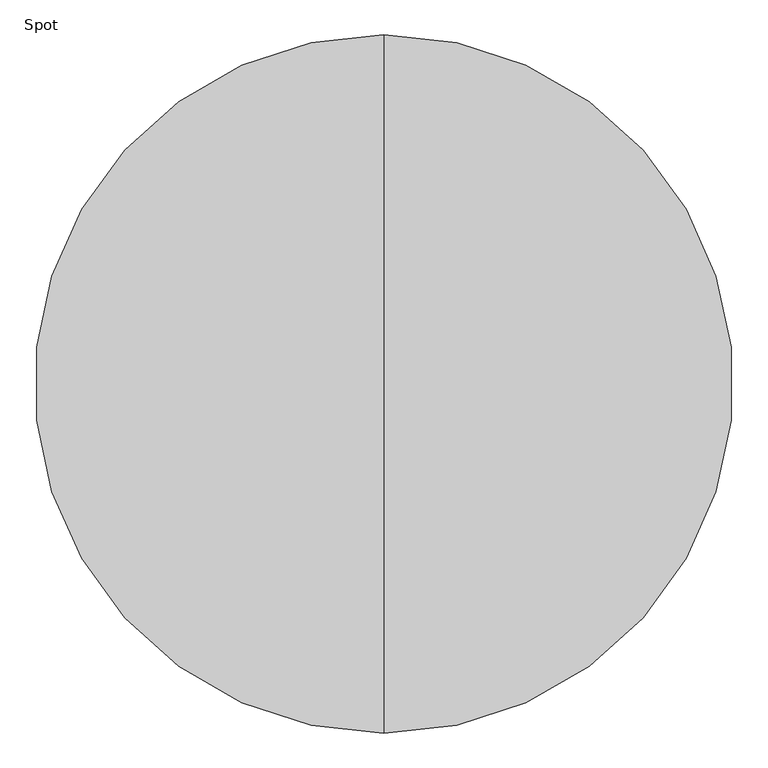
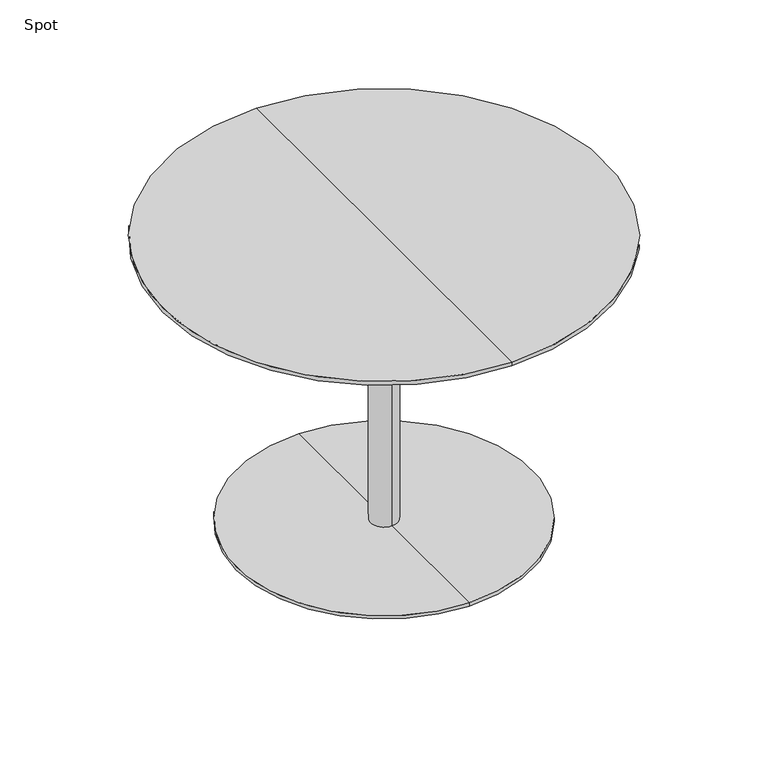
"""IFC4 building model written with IfcOpenShell, lengths in millimetres: furniture geometry, Spot : ø105x72."""

from ifc_helpers import new_model, si_unit, frame, origin, place, context, project, spatial, polyline, circle_curve, source, transform, mapped, element, save
from ifc_brep_helpers import plane_surface, cylinder_surface, revolved_surface, advanced_brep


def spot_8b0f4b8c(model_context):
    return source(origin(), model_context, "Body", "AdvancedBrep", [
        advanced_brep(
        [(0.0, 525.0, 720.0), (0.0, -525.0, 720.0), (0.0, 0.0, 720.0), (0.0, 525.0, 710.25), (0.0, -525.0, 710.25), (0.0, 479.2823776, 698.0), (0.0, -479.2823776, 698.0), (0.0, 0.0, 698.0)],
        [
            (0, 1, circle_curve(frame((0.0, 0.0, 720.0), z_axis=(0.0, 0.0, 1.0), x_axis=(0.0, -1.0, 0.0)), 525.0)),
            (1, 2),
            (2, 0),
            (1, 0, circle_curve(frame((0.0, 0.0, 720.0), z_axis=(0.0, 0.0, 1.0), x_axis=(0.0, -1.0, 0.0)), 525.0)),
            (3, 4, circle_curve(frame((0.0, 0.0, 710.25), z_axis=(0.0, 0.0, 1.0), x_axis=(0.0, -1.0, 0.0)), 525.0)),
            (4, 1),
            (0, 3),
            (4, 3, circle_curve(frame((0.0, 0.0, 710.25), z_axis=(0.0, 0.0, 1.0), x_axis=(0.0, -1.0, 0.0)), 525.0)),
            (5, 6, circle_curve(frame((0.0, 0.0, 698.0), z_axis=(0.0, 0.0, 1.0), x_axis=(0.0, -1.0, 0.0)), 479.2823776)),
            (6, 4),
            (3, 5),
            (6, 5, circle_curve(frame((0.0, 0.0, 698.0), z_axis=(0.0, 0.0, 1.0), x_axis=(0.0, -1.0, 0.0)), 479.2823776)),
            (7, 6),
            (5, 7),
        ],
        [
            plane_surface(frame((0.0, 0.0, 720.0), z_axis=(0.0, 0.0, 1.0), x_axis=(0.0, -1.0, 0.0))),
            cylinder_surface(frame((0.0, 0.0, 800.0), z_axis=(0.0, 0.0, -1.0), x_axis=(0.0, -1.0, 0.0)), 525.0),
            revolved_surface(polyline([(0.0, -525.0, 710.25), (0.0, -479.2823776, 698.0)]), (0.0, 0.0, 800.0), (0.0, 0.0, -1.0)),
            plane_surface(frame((0.0, 0.0, 698.0), z_axis=(0.0, 0.0, -1.0), x_axis=(0.0, -1.0, 0.0))),
        ],
        [
            (0, [[1, 2, 3]]),
            (0, [[4, -3, -2]]),
            (1, [[5, 6, -1, 7]]),
            (1, [[8, -7, -4, -6]]),
            (2, [[9, 10, -5, 11]]),
            (2, [[12, -11, -8, -10]]),
            (3, [[13, -9, 14]]),
            (3, [[-14, -12, -13]]),
        ],
    ),
        advanced_brep(
        [(0.0, 32.0, 10.0), (0.0, -32.0, 10.0), (0.0, -32.0, 667.406916), (0.0, 32.0, 667.406916), (0.0, 350.0, 10.0), (0.0, -350.0, 10.0), (0.0, 350.0, 2.0), (0.0, -350.0, 2.0), (0.0, 0.0, 2.0), (0.0, 150.0, 698.0), (0.0, -150.0, 698.0), (0.0, 0.0, 698.0), (0.0, 150.0, 686.7213673), (0.0, -150.0, 686.7213673)],
        [
            (0, 1, circle_curve(frame((0.0, 0.0, 10.0), z_axis=(0.0, 0.0, 1.0), x_axis=(0.0, -1.0, 0.0)), 32.0)),
            (1, 2),
            (2, 3, circle_curve(frame((0.0, 0.0, 667.406916), z_axis=(0.0, 0.0, -1.0), x_axis=(0.0, -1.0, 0.0)), 32.0)),
            (3, 0),
            (1, 0, circle_curve(frame((0.0, 0.0, 10.0), z_axis=(0.0, 0.0, 1.0), x_axis=(0.0, -1.0, 0.0)), 32.0)),
            (3, 2, circle_curve(frame((0.0, 0.0, 667.406916), z_axis=(0.0, 0.0, -1.0), x_axis=(0.0, -1.0, 0.0)), 32.0)),
            (4, 5, circle_curve(frame((0.0, 0.0, 10.0), z_axis=(0.0, 0.0, 1.0), x_axis=(0.0, -1.0, 0.0)), 350.0)),
            (5, 1),
            (0, 4),
            (5, 4, circle_curve(frame((0.0, 0.0, 10.0), z_axis=(0.0, 0.0, 1.0), x_axis=(0.0, -1.0, 0.0)), 350.0)),
            (6, 7, circle_curve(frame((0.0, 0.0, 2.0), z_axis=(0.0, 0.0, 1.0), x_axis=(0.0, -1.0, 0.0)), 350.0)),
            (7, 5),
            (4, 6),
            (7, 6, circle_curve(frame((0.0, 0.0, 2.0), z_axis=(0.0, 0.0, 1.0), x_axis=(0.0, -1.0, 0.0)), 350.0)),
            (8, 7),
            (6, 8),
            (9, 10, circle_curve(frame((0.0, 0.0, 698.0), z_axis=(0.0, 0.0, 1.0), x_axis=(0.0, -1.0, 0.0)), 150.0)),
            (10, 11),
            (11, 9),
            (10, 9, circle_curve(frame((0.0, 0.0, 698.0), z_axis=(0.0, 0.0, 1.0), x_axis=(0.0, -1.0, 0.0)), 150.0)),
            (12, 13, circle_curve(frame((0.0, 0.0, 686.7213673), z_axis=(0.0, 0.0, 1.0), x_axis=(0.0, -1.0, 0.0)), 150.0)),
            (13, 10),
            (9, 12),
            (13, 12, circle_curve(frame((0.0, 0.0, 686.7213673), z_axis=(0.0, 0.0, 1.0), x_axis=(0.0, -1.0, 0.0)), 150.0)),
            (2, 13),
            (12, 3),
        ],
        [
            cylinder_surface(frame((0.0, 0.0, 1060.0), z_axis=(0.0, 0.0, -1.0), x_axis=(0.0, -1.0, 0.0)), 32.0),
            plane_surface(frame((0.0, 0.0, 10.0), z_axis=(0.0, 0.0, 1.0), x_axis=(0.0, -1.0, 0.0))),
            cylinder_surface(frame((0.0, 0.0, 1060.0), z_axis=(0.0, 0.0, -1.0), x_axis=(0.0, -1.0, 0.0)), 350.0),
            plane_surface(frame((0.0, 0.0, 2.0), z_axis=(0.0, 0.0, -1.0), x_axis=(0.0, -1.0, 0.0))),
            plane_surface(frame((0.0, 0.0, 698.0), z_axis=(0.0, 0.0, 1.0), x_axis=(0.0, -1.0, 0.0))),
            cylinder_surface(frame((0.0, 0.0, 1060.0), z_axis=(0.0, 0.0, -1.0), x_axis=(0.0, -1.0, 0.0)), 150.0),
            revolved_surface(polyline([(0.0, -150.0, 686.7213673), (0.0, -32.0, 667.406916)]), (0.0, 0.0, 1060.0), (0.0, 0.0, -1.0)),
        ],
        [
            (0, [[1, 2, 3, 4]]),
            (0, [[5, -4, 6, -2]]),
            (1, [[7, 8, -1, 9]]),
            (1, [[10, -9, -5, -8]]),
            (2, [[11, 12, -7, 13]]),
            (2, [[14, -13, -10, -12]]),
            (3, [[15, -11, 16]]),
            (3, [[-16, -14, -15]]),
            (4, [[17, 18, 19]]),
            (4, [[20, -19, -18]]),
            (5, [[21, 22, -17, 23]]),
            (5, [[24, -23, -20, -22]]),
            (6, [[-3, 25, -21, 26]]),
            (6, [[-6, -26, -24, -25]]),
        ],
    ),
    ])


if __name__ == "__main__":
    model = new_model("IFC4")
    model_context = context("Model", 3, world=origin())
    ifc_project = project(units=[si_unit("LENGTHUNIT", "METRE", prefix="MILLI")], contexts=[model_context])
    site = spatial("IfcSite", under=ifc_project)
    building = spatial("IfcBuilding", under=site)
    placement = place(None, origin())
    spot_shape = spot_8b0f4b8c(model_context)
    element("IfcFurniture", 1, ObjectType="Spot : ø105x72", at=placement, inside=building, context=model_context, shape_type="MappedRepresentation", body=[
        mapped(spot_shape, transform((0.0, 0.0, 0.0), x_axis=(1.0, 0.0, 0.0), y_axis=(0.0, 1.0, 0.0), z_axis=(0.0, 0.0, 1.0))),
    ])
    save(model, "model.ifc")
